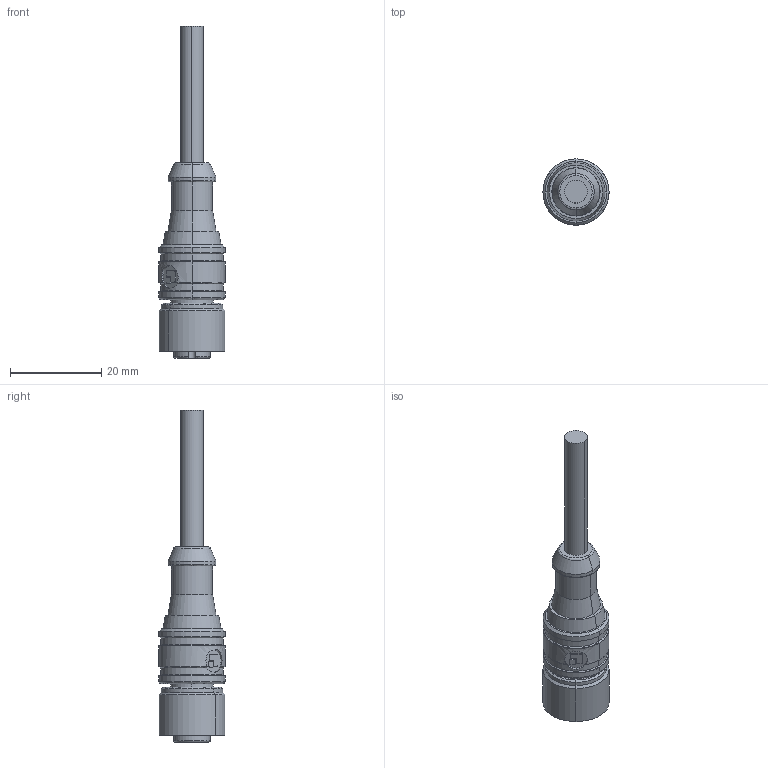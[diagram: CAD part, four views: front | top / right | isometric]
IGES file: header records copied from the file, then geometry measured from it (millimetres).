
Start section: Elysium IGES Interface
Global section: file name: C:\Data\JobServerData\JobServer Files\4a7db8a1-4b5b-4230-a922-87c3fbdaa2dc\work\output\model.igs; native system: PTC Creo Elements/Direct Modeling 19.0B  21-Mar-2015; preprocessor: Creo Element/Direct IGES_3D V2.2; author: Unknown; organization: Unknown; date: 20180411.095659; units: millimetre
Bounding box: 14.5 x 14.5 x 72.8 mm (x, y, z)
Volume: 6102.7 mm3; surface area: 3456.9 mm2
Topology: 1 solids, 2 shells, 131 faces, 298 edges, 188 vertices
Faces by surface type: bspline 131
